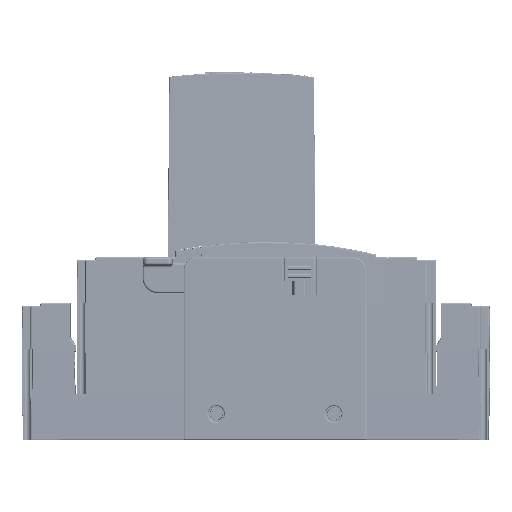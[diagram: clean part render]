
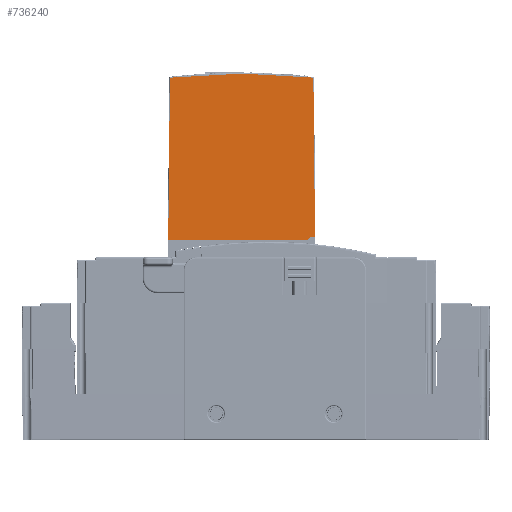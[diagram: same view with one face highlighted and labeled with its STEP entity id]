
A CAD part, left-side view. The second image highlights one B-rep face of the part: STEP entity #736240.
In plain terms, the highlighted planar face has unit normal (-1, 0, 0.009).
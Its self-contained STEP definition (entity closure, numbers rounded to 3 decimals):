
#56814 = CARTESIAN_POINT ( 'NONE',  ( -143.92, -82.976, 56.237 ) ) ;
#56817 = CARTESIAN_POINT ( 'NONE',  ( -143.907, -80.834, 57.7 ) ) ;
#56822 = CARTESIAN_POINT ( 'NONE',  ( -143.915, -78.39, 56.832 ) ) ;
#56827 = CARTESIAN_POINT ( 'NONE',  ( -143.937, -77.649, 54.347 ) ) ;
#56854 =( BOUNDED_CURVE ( )  B_SPLINE_CURVE ( 3, ( #56827, #56822, #56817, #56814 ),
 .UNSPECIFIED., .F., .T. ) 
 B_SPLINE_CURVE_WITH_KNOTS ( ( 4, 4 ),
 ( 5.002, 6.882 ),
 .UNSPECIFIED. ) 
 CURVE ( )  GEOMETRIC_REPRESENTATION_ITEM ( )  RATIONAL_B_SPLINE_CURVE ( ( 1., 0.727, 0.727, 1. ) ) 
 REPRESENTATION_ITEM ( '' )  );
#62435 = CARTESIAN_POINT ( 'NONE',  ( -142.849, 28.199, 178.983 ) ) ;
#62637 = B_SPLINE_CURVE_WITH_KNOTS ( 'NONE', 3,
 ( #62435, #62909, #62904, #62898 ),
 .UNSPECIFIED., .F., .F.,
 ( 4, 4 ),
 ( 0.401, 0.6 ),
 .UNSPECIFIED. ) ;
#62898 = CARTESIAN_POINT ( 'NONE',  ( -143.937, 29.487, 54.347 ) ) ;
#62904 = CARTESIAN_POINT ( 'NONE',  ( -143.574, 29.124, 95.893 ) ) ;
#62909 = CARTESIAN_POINT ( 'NONE',  ( -143.211, 28.563, 137.437 ) ) ;
#148698 = VERTEX_POINT ( 'NONE', #861236 ) ;
#197056 = EDGE_CURVE ( 'NONE', #936874, #148698, #56854, .T. ) ;
#247259 = FACE_OUTER_BOUND ( 'NONE', #719551, .T. ) ;
#247594 = DIRECTION ( 'NONE',  ( -0.009, 0., -1. ) ) ;
#247601 = DIRECTION ( 'NONE',  ( -1., 0., 0.009 ) ) ;
#247611 = CARTESIAN_POINT ( 'NONE',  ( -143.937, 29.787, 54.347 ) ) ;
#247616 = AXIS2_PLACEMENT_3D ( 'NONE', #247611, #247601, #247594 ) ;
#247645 = PLANE ( 'NONE',  #247616 ) ;
#324706 = ORIENTED_EDGE ( 'NONE', *, *, #197056, .T. ) ;
#404508 = ORIENTED_EDGE ( 'NONE', *, *, #698521, .T. ) ;
#628319 = CARTESIAN_POINT ( 'NONE',  ( -143.937, -77.649, 54.347 ) ) ;
#629578 = DIRECTION ( 'NONE',  ( 0., -1., 0. ) ) ;
#629581 = VECTOR ( 'NONE', #629578, 1000. ) ;
#629585 = CARTESIAN_POINT ( 'NONE',  ( -143.937, 29.787, 54.347 ) ) ;
#629590 = LINE ( 'NONE', #629585, #629581 ) ;
#630053 = CARTESIAN_POINT ( 'NONE',  ( -143.937, 29.487, 54.347 ) ) ;
#672919 = ORIENTED_EDGE ( 'NONE', *, *, #714784, .T. ) ;
#673357 = VERTEX_POINT ( 'NONE', #799311 ) ;
#698521 = EDGE_CURVE ( 'NONE', #873688, #673357, #1021864, .T. ) ;
#698922 = ORIENTED_EDGE ( 'NONE', *, *, #874288, .T. ) ;
#700449 = EDGE_CURVE ( 'NONE', #148698, #874300, #1038781, .T. ) ;
#714784 = EDGE_CURVE ( 'NONE', #673357, #937005, #62637, .T. ) ;
#715821 = ORIENTED_EDGE ( 'NONE', *, *, #936970, .T. ) ;
#719551 = EDGE_LOOP ( 'NONE', ( #715821, #324706, #1067159, #698922, #404508, #672919 ) ) ;
#736240 = ADVANCED_FACE ( 'NONE', ( #247259 ), #247645, .T. ) ;
#799311 = CARTESIAN_POINT ( 'NONE',  ( -142.849, 28.199, 178.983 ) ) ;
#861236 = CARTESIAN_POINT ( 'NONE',  ( -143.92, -82.976, 56.237 ) ) ;
#869530 = CARTESIAN_POINT ( 'NONE',  ( -142.822, -27.003, 182.12 ) ) ;
#873688 = VERTEX_POINT ( 'NONE', #869530 ) ;
#874288 = EDGE_CURVE ( 'NONE', #874300, #873688, #877954, .T. ) ;
#874300 = VERTEX_POINT ( 'NONE', #877792 ) ;
#877792 = CARTESIAN_POINT ( 'NONE',  ( -142.848, -81.705, 179.04 ) ) ;
#877871 = CARTESIAN_POINT ( 'NONE',  ( -142.822, -27.003, 182.12 ) ) ;
#877877 = CARTESIAN_POINT ( 'NONE',  ( -142.822, -45.285, 182.12 ) ) ;
#877884 = CARTESIAN_POINT ( 'NONE',  ( -142.831, -63.538, 181.092 ) ) ;
#877893 = CARTESIAN_POINT ( 'NONE',  ( -142.848, -81.705, 179.04 ) ) ;
#877954 =( BOUNDED_CURVE ( )  B_SPLINE_CURVE ( 3, ( #877893, #877884, #877877, #877871 ),
 .UNSPECIFIED., .F., .T. ) 
 B_SPLINE_CURVE_WITH_KNOTS ( ( 4, 4 ),
 ( 6.171, 6.283 ),
 .UNSPECIFIED. ) 
 CURVE ( )  GEOMETRIC_REPRESENTATION_ITEM ( )  RATIONAL_B_SPLINE_CURVE ( ( 1., 0.999, 0.999, 1. ) ) 
 REPRESENTATION_ITEM ( '' )  );
#936874 = VERTEX_POINT ( 'NONE', #628319 ) ;
#936970 = EDGE_CURVE ( 'NONE', #937005, #936874, #629590, .T. ) ;
#937005 = VERTEX_POINT ( 'NONE', #630053 ) ;
#1021806 = CARTESIAN_POINT ( 'NONE',  ( -142.849, 28.199, 178.983 ) ) ;
#1021810 = CARTESIAN_POINT ( 'NONE',  ( -142.831, 9.868, 181.073 ) ) ;
#1021818 = CARTESIAN_POINT ( 'NONE',  ( -142.822, -8.553, 182.12 ) ) ;
#1021822 = CARTESIAN_POINT ( 'NONE',  ( -142.822, -27.003, 182.12 ) ) ;
#1021864 =( BOUNDED_CURVE ( )  B_SPLINE_CURVE ( 3, ( #1021822, #1021818, #1021810, #1021806 ),
 .UNSPECIFIED., .F., .T. ) 
 B_SPLINE_CURVE_WITH_KNOTS ( ( 4, 4 ),
 ( 0., 0.114 ),
 .UNSPECIFIED. ) 
 CURVE ( )  GEOMETRIC_REPRESENTATION_ITEM ( )  RATIONAL_B_SPLINE_CURVE ( ( 1., 0.999, 0.999, 1. ) ) 
 REPRESENTATION_ITEM ( '' )  );
#1038737 = CARTESIAN_POINT ( 'NONE',  ( -142.848, -81.705, 179.04 ) ) ;
#1038741 = CARTESIAN_POINT ( 'NONE',  ( -143.206, -82.063, 138.105 ) ) ;
#1038746 = CARTESIAN_POINT ( 'NONE',  ( -143.563, -82.613, 97.172 ) ) ;
#1038752 = CARTESIAN_POINT ( 'NONE',  ( -143.92, -82.976, 56.237 ) ) ;
#1038781 = B_SPLINE_CURVE_WITH_KNOTS ( 'NONE', 3,
 ( #1038752, #1038746, #1038741, #1038737 ),
 .UNSPECIFIED., .F., .F.,
 ( 4, 4 ),
 ( 0.403, 0.599 ),
 .UNSPECIFIED. ) ;
#1067159 = ORIENTED_EDGE ( 'NONE', *, *, #700449, .T. ) ;
